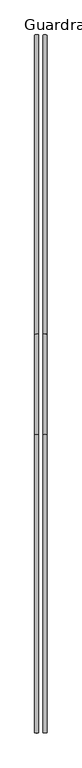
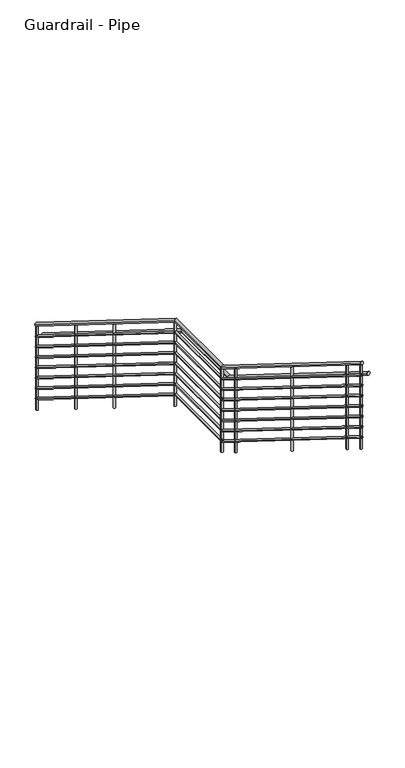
"""IFC4 building model written with IfcOpenShell, lengths in millimetres: railing geometry, Guardrail - Pipe."""

from ifc_helpers import new_model, si_unit, point, frame, frame_2d, origin, place, context, project, spatial, circle_curve, ellipse_curve, trimmed, segment, composite_curve, outline, extrude, source, transform, mapped, element, save
from ifc_brep_helpers import plane_surface, cylinder_surface, advanced_brep


def guardrail_pipe_06b17180(model_context):
    return source(origin(), model_context, "Body", "SolidModel", [
        advanced_brep(
        [(-3343.0939612, 2884.909643, -2439.0768639), (-3304.9939612, 2884.909643, -2439.0768639), (-3343.0939612, 85.4582154, -693.9642857), (-3304.9939612, 85.4582154, -693.9642857), (-3343.0939612, -854.3417846, -693.9642857), (-3304.9939612, -854.3417846, -693.9642857), (-3343.0939612, -3642.890357, 1044.3517075), (-3304.9939612, -3642.890357, 1044.3517075)],
        [
            (0, 1, ellipse_curve(frame((-3324.0439612, 2884.909643, -2439.0768639), z_axis=(0.0, 1.0, 0.0), x_axis=(0.0, 0.0, -1.0)), 22.4482925, 19.05)),
            (1, 0, ellipse_curve(frame((-3324.0439612, 2884.909643, -2439.0768639), z_axis=(0.0, 1.0, 0.0), x_axis=(0.0, 0.0, -1.0)), 22.4482925, 19.05)),
            (0, 2),
            (2, 3, ellipse_curve(frame((-3324.0439612, 85.4582154, -693.9642857), z_axis=(0.0, 0.9614096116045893, -0.2751209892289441), x_axis=(0.0, -0.27512098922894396, -0.9614096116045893)), 19.8146552, 19.05)),
            (3, 1),
            (3, 2, ellipse_curve(frame((-3324.0439612, 85.4582154, -693.9642857), z_axis=(0.0, 0.9614096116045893, -0.2751209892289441), x_axis=(0.0, -0.27512098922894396, -0.9614096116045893)), 19.8146552, 19.05)),
            (2, 4),
            (4, 5, ellipse_curve(frame((-3324.0439612, -854.3417846, -693.9642857), z_axis=(0.0, 0.9614096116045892, -0.27512098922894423), x_axis=(0.0, 0.2751209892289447, 0.9614096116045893)), 19.8146552, 19.05)),
            (5, 3),
            (5, 4, ellipse_curve(frame((-3324.0439612, -854.3417846, -693.9642857), z_axis=(0.0, 0.9614096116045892, -0.27512098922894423), x_axis=(0.0, 0.2751209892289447, 0.9614096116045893)), 19.8146552, 19.05)),
            (6, 7, ellipse_curve(frame((-3324.0439612, -3642.890357, 1044.3517075), z_axis=(0.0, -1.0, 0.0), x_axis=(0.0, 0.0, -1.0)), 22.4482925, 19.05)),
            (7, 6, ellipse_curve(frame((-3324.0439612, -3642.890357, 1044.3517075), z_axis=(0.0, -1.0, 0.0), x_axis=(0.0, 0.0, -1.0)), 22.4482925, 19.05)),
            (4, 6),
            (7, 5),
        ],
        [
            plane_surface(frame((-3324.0439612, 2884.909643, -2416.6285714), z_axis=(0.0, 1.0, 0.0), x_axis=(0.0, 0.0, -1.0))),
            cylinder_surface(frame((-3324.0439612, 2874.832042, -2432.794723), z_axis=(0.0, 0.8486168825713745, -0.5290079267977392), x_axis=(1.0, 0.0, 0.0)), 19.05),
            cylinder_surface(frame((-3324.0439612, 90.909643, -693.9642857), z_axis=(0.0, 1.0, 0.0), x_axis=(1.0, 0.0, 0.0)), 19.05),
            plane_surface(frame((-3324.0439612, -3642.890357, 1066.8), z_axis=(0.0, -1.0, 0.0), x_axis=(0.0, 0.0, -1.0))),
            cylinder_surface(frame((-3324.0439612, -858.967958, -691.0804373), z_axis=(0.0, 0.8486168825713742, -0.5290079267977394), x_axis=(1.0, 0.0, 0.0)), 19.05),
        ],
        [
            (0, [[1, 2]]),
            (1, [[-1, 3, 4, 5]]),
            (1, [[-2, -5, 6, -3]]),
            (2, [[-4, 7, 8, 9]]),
            (2, [[-6, -9, 10, -7]]),
            (3, [[11, 12]]),
            (4, [[-8, 13, -12, 14]]),
            (4, [[-10, -14, -11, -13]]),
        ],
    ),
        advanced_brep(
        [(-3336.7439612, 2884.909643, -2583.9940998), (-3311.3439612, 2884.909643, -2583.9940998), (-3336.7439612, 87.2753579, -840.0142857), (-3311.3439612, 87.2753579, -840.0142857), (-3336.7439612, -852.5246421, -840.0142857), (-3311.3439612, -852.5246421, -840.0142857), (-3336.7439612, -3642.890357, 899.4344717), (-3311.3439612, -3642.890357, 899.4344717)],
        [
            (0, 1, ellipse_curve(frame((-3324.0439612, 2884.909643, -2583.9940998), z_axis=(0.0, 1.0, 0.0), x_axis=(0.0, 0.0, -1.0)), 14.9655283, 12.7)),
            (1, 0, ellipse_curve(frame((-3324.0439612, 2884.909643, -2583.9940998), z_axis=(0.0, 1.0, 0.0), x_axis=(0.0, 0.0, -1.0)), 14.9655283, 12.7)),
            (0, 2),
            (2, 3, ellipse_curve(frame((-3324.0439612, 87.2753579, -840.0142857), z_axis=(0.0, 0.9614096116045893, -0.2751209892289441), x_axis=(0.0, -0.27512098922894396, -0.9614096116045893)), 13.2097702, 12.7)),
            (3, 1),
            (3, 2, ellipse_curve(frame((-3324.0439612, 87.2753579, -840.0142857), z_axis=(0.0, 0.9614096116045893, -0.2751209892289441), x_axis=(0.0, -0.27512098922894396, -0.9614096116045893)), 13.2097702, 12.7)),
            (2, 4),
            (4, 5, ellipse_curve(frame((-3324.0439612, -852.5246421, -840.0142857), z_axis=(0.0, 0.9614096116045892, -0.27512098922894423), x_axis=(0.0, 0.2751209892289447, 0.9614096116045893)), 13.2097702, 12.7)),
            (5, 3),
            (5, 4, ellipse_curve(frame((-3324.0439612, -852.5246421, -840.0142857), z_axis=(0.0, 0.9614096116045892, -0.27512098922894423), x_axis=(0.0, 0.2751209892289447, 0.9614096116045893)), 13.2097702, 12.7)),
            (6, 7, ellipse_curve(frame((-3324.0439612, -3642.890357, 899.4344717), z_axis=(0.0, -1.0, 0.0), x_axis=(0.0, 0.0, -1.0)), 14.9655283, 12.7)),
            (7, 6, ellipse_curve(frame((-3324.0439612, -3642.890357, 899.4344717), z_axis=(0.0, -1.0, 0.0), x_axis=(0.0, 0.0, -1.0)), 14.9655283, 12.7)),
            (4, 6),
            (7, 5),
        ],
        [
            plane_surface(frame((-3324.0439612, 2884.909643, -2569.0285714), z_axis=(0.0, 1.0, 0.0), x_axis=(0.0, 0.0, -1.0))),
            cylinder_surface(frame((-3324.0439612, 2878.1912423, -2579.8060058), z_axis=(0.0, 0.8486168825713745, -0.5290079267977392), x_axis=(1.0, 0.0, 0.0)), 12.7),
            cylinder_surface(frame((-3324.0439612, 90.909643, -840.0142857), z_axis=(0.0, 1.0, 0.0), x_axis=(1.0, 0.0, 0.0)), 12.7),
            plane_surface(frame((-3324.0439612, -3642.890357, 914.4), z_axis=(0.0, -1.0, 0.0), x_axis=(0.0, 0.0, -1.0))),
            cylinder_surface(frame((-3324.0439612, -855.6087577, -838.0917201), z_axis=(0.0, 0.8486168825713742, -0.5290079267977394), x_axis=(1.0, 0.0, 0.0)), 12.7),
        ],
        [
            (0, [[1, 2]]),
            (1, [[-1, 3, 4, 5]]),
            (1, [[-2, -5, 6, -3]]),
            (2, [[-4, 7, 8, 9]]),
            (2, [[-6, -9, 10, -7]]),
            (3, [[11, 12]]),
            (4, [[-8, 13, -12, 14]]),
            (4, [[-10, -14, -11, -13]]),
        ],
    ),
        advanced_brep(
        [(-3266.8939612, 2884.909643, -2591.4768639), (-3228.7939612, 2884.909643, -2591.4768639), (-3266.8939612, 85.4582154, -846.3642857), (-3228.7939612, 85.4582154, -846.3642857), (-3266.8939612, -854.3417846, -846.3642857), (-3228.7939612, -854.3417846, -846.3642857), (-3266.8939612, -3642.890357, 891.9517075), (-3228.7939612, -3642.890357, 891.9517075)],
        [
            (0, 1, ellipse_curve(frame((-3247.8439612, 2884.909643, -2591.4768639), z_axis=(0.0, 1.0, 0.0), x_axis=(0.0, 0.0, -1.0)), 22.4482925, 19.05)),
            (1, 0, ellipse_curve(frame((-3247.8439612, 2884.909643, -2591.4768639), z_axis=(0.0, 1.0, 0.0), x_axis=(0.0, 0.0, -1.0)), 22.4482925, 19.05)),
            (0, 2),
            (2, 3, ellipse_curve(frame((-3247.8439612, 85.4582154, -846.3642857), z_axis=(0.0, 0.9614096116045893, -0.2751209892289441), x_axis=(0.0, -0.27512098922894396, -0.9614096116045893)), 19.8146552, 19.05)),
            (3, 1),
            (3, 2, ellipse_curve(frame((-3247.8439612, 85.4582154, -846.3642857), z_axis=(0.0, 0.9614096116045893, -0.2751209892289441), x_axis=(0.0, -0.27512098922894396, -0.9614096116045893)), 19.8146552, 19.05)),
            (2, 4),
            (4, 5, ellipse_curve(frame((-3247.8439612, -854.3417846, -846.3642857), z_axis=(0.0, 0.9614096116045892, -0.27512098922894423), x_axis=(0.0, 0.2751209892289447, 0.9614096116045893)), 19.8146552, 19.05)),
            (5, 3),
            (5, 4, ellipse_curve(frame((-3247.8439612, -854.3417846, -846.3642857), z_axis=(0.0, 0.9614096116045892, -0.27512098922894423), x_axis=(0.0, 0.2751209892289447, 0.9614096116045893)), 19.8146552, 19.05)),
            (6, 7, ellipse_curve(frame((-3247.8439612, -3642.890357, 891.9517075), z_axis=(0.0, -1.0, 0.0), x_axis=(0.0, 0.0, -1.0)), 22.4482925, 19.05)),
            (7, 6, ellipse_curve(frame((-3247.8439612, -3642.890357, 891.9517075), z_axis=(0.0, -1.0, 0.0), x_axis=(0.0, 0.0, -1.0)), 22.4482925, 19.05)),
            (4, 6),
            (7, 5),
        ],
        [
            plane_surface(frame((-3247.8439612, 2884.909643, -2569.0285714), z_axis=(0.0, 1.0, 0.0), x_axis=(0.0, 0.0, -1.0))),
            cylinder_surface(frame((-3247.8439612, 2874.832042, -2585.194723), z_axis=(0.0, 0.8486168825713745, -0.5290079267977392), x_axis=(1.0, 0.0, 0.0)), 19.05),
            cylinder_surface(frame((-3247.8439612, 90.909643, -846.3642857), z_axis=(0.0, 1.0, 0.0), x_axis=(1.0, 0.0, 0.0)), 19.05),
            plane_surface(frame((-3247.8439612, -3642.890357, 914.4), z_axis=(0.0, -1.0, 0.0), x_axis=(0.0, 0.0, -1.0))),
            cylinder_surface(frame((-3247.8439612, -858.967958, -843.4804373), z_axis=(0.0, 0.8486168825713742, -0.5290079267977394), x_axis=(1.0, 0.0, 0.0)), 19.05),
        ],
        [
            (0, [[1, 2]]),
            (1, [[-1, 3, 4, 5]]),
            (1, [[-2, -5, 6, -3]]),
            (2, [[-4, 7, 8, 9]]),
            (2, [[-6, -9, 10, -7]]),
            (3, [[11, 12]]),
            (4, [[-8, 13, -12, 14]]),
            (4, [[-10, -14, -11, -13]]),
        ],
    ),
        advanced_brep(
        [(-3336.7439612, 2884.909643, -2710.9940998), (-3311.3439612, 2884.909643, -2710.9940998), (-3336.7439612, 87.2753579, -967.0142857), (-3311.3439612, 87.2753579, -967.0142857), (-3336.7439612, -852.5246421, -967.0142857), (-3311.3439612, -852.5246421, -967.0142857), (-3336.7439612, -3642.890357, 772.4344717), (-3311.3439612, -3642.890357, 772.4344717)],
        [
            (0, 1, ellipse_curve(frame((-3324.0439612, 2884.909643, -2710.9940998), z_axis=(0.0, 1.0, 0.0), x_axis=(0.0, 0.0, -1.0)), 14.9655283, 12.7)),
            (1, 0, ellipse_curve(frame((-3324.0439612, 2884.909643, -2710.9940998), z_axis=(0.0, 1.0, 0.0), x_axis=(0.0, 0.0, -1.0)), 14.9655283, 12.7)),
            (0, 2),
            (2, 3, ellipse_curve(frame((-3324.0439612, 87.2753579, -967.0142857), z_axis=(0.0, 0.9614096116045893, -0.2751209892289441), x_axis=(0.0, -0.27512098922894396, -0.9614096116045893)), 13.2097702, 12.7)),
            (3, 1),
            (3, 2, ellipse_curve(frame((-3324.0439612, 87.2753579, -967.0142857), z_axis=(0.0, 0.9614096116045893, -0.2751209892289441), x_axis=(0.0, -0.27512098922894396, -0.9614096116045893)), 13.2097702, 12.7)),
            (2, 4),
            (4, 5, ellipse_curve(frame((-3324.0439612, -852.5246421, -967.0142857), z_axis=(0.0, 0.9614096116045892, -0.27512098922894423), x_axis=(0.0, 0.2751209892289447, 0.9614096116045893)), 13.2097702, 12.7)),
            (5, 3),
            (5, 4, ellipse_curve(frame((-3324.0439612, -852.5246421, -967.0142857), z_axis=(0.0, 0.9614096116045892, -0.27512098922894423), x_axis=(0.0, 0.2751209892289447, 0.9614096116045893)), 13.2097702, 12.7)),
            (6, 7, ellipse_curve(frame((-3324.0439612, -3642.890357, 772.4344717), z_axis=(0.0, -1.0, 0.0), x_axis=(0.0, 0.0, -1.0)), 14.9655283, 12.7)),
            (7, 6, ellipse_curve(frame((-3324.0439612, -3642.890357, 772.4344717), z_axis=(0.0, -1.0, 0.0), x_axis=(0.0, 0.0, -1.0)), 14.9655283, 12.7)),
            (4, 6),
            (7, 5),
        ],
        [
            plane_surface(frame((-3324.0439612, 2884.909643, -2696.0285714), z_axis=(0.0, 1.0, 0.0), x_axis=(0.0, 0.0, -1.0))),
            cylinder_surface(frame((-3324.0439612, 2878.1912423, -2706.8060058), z_axis=(0.0, 0.8486168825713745, -0.5290079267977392), x_axis=(1.0, 0.0, 0.0)), 12.7),
            cylinder_surface(frame((-3324.0439612, 90.909643, -967.0142857), z_axis=(0.0, 1.0, 0.0), x_axis=(1.0, 0.0, 0.0)), 12.7),
            plane_surface(frame((-3324.0439612, -3642.890357, 787.4), z_axis=(0.0, -1.0, 0.0), x_axis=(0.0, 0.0, -1.0))),
            cylinder_surface(frame((-3324.0439612, -855.6087577, -965.0917201), z_axis=(0.0, 0.8486168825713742, -0.5290079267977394), x_axis=(1.0, 0.0, 0.0)), 12.7),
        ],
        [
            (0, [[1, 2]]),
            (1, [[-1, 3, 4, 5]]),
            (1, [[-2, -5, 6, -3]]),
            (2, [[-4, 7, 8, 9]]),
            (2, [[-6, -9, 10, -7]]),
            (3, [[11, 12]]),
            (4, [[-8, 13, -12, 14]]),
            (4, [[-10, -14, -11, -13]]),
        ],
    ),
        advanced_brep(
        [(-3336.7439612, 2884.909643, -2837.9940998), (-3311.3439612, 2884.909643, -2837.9940998), (-3336.7439612, 87.2753579, -1094.0142857), (-3311.3439612, 87.2753579, -1094.0142857), (-3336.7439612, -852.5246421, -1094.0142857), (-3311.3439612, -852.5246421, -1094.0142857), (-3336.7439612, -3642.890357, 645.4344717), (-3311.3439612, -3642.890357, 645.4344717)],
        [
            (0, 1, ellipse_curve(frame((-3324.0439612, 2884.909643, -2837.9940998), z_axis=(0.0, 1.0, 0.0), x_axis=(0.0, 0.0, -1.0)), 14.9655283, 12.7)),
            (1, 0, ellipse_curve(frame((-3324.0439612, 2884.909643, -2837.9940998), z_axis=(0.0, 1.0, 0.0), x_axis=(0.0, 0.0, -1.0)), 14.9655283, 12.7)),
            (0, 2),
            (2, 3, ellipse_curve(frame((-3324.0439612, 87.2753579, -1094.0142857), z_axis=(0.0, 0.9614096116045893, -0.2751209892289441), x_axis=(0.0, -0.27512098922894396, -0.9614096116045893)), 13.2097702, 12.7)),
            (3, 1),
            (3, 2, ellipse_curve(frame((-3324.0439612, 87.2753579, -1094.0142857), z_axis=(0.0, 0.9614096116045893, -0.2751209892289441), x_axis=(0.0, -0.27512098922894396, -0.9614096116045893)), 13.2097702, 12.7)),
            (2, 4),
            (4, 5, ellipse_curve(frame((-3324.0439612, -852.5246421, -1094.0142857), z_axis=(0.0, 0.9614096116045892, -0.27512098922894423), x_axis=(0.0, 0.2751209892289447, 0.9614096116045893)), 13.2097702, 12.7)),
            (5, 3),
            (5, 4, ellipse_curve(frame((-3324.0439612, -852.5246421, -1094.0142857), z_axis=(0.0, 0.9614096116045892, -0.27512098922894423), x_axis=(0.0, 0.2751209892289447, 0.9614096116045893)), 13.2097702, 12.7)),
            (6, 7, ellipse_curve(frame((-3324.0439612, -3642.890357, 645.4344717), z_axis=(0.0, -1.0, 0.0), x_axis=(0.0, 0.0, -1.0)), 14.9655283, 12.7)),
            (7, 6, ellipse_curve(frame((-3324.0439612, -3642.890357, 645.4344717), z_axis=(0.0, -1.0, 0.0), x_axis=(0.0, 0.0, -1.0)), 14.9655283, 12.7)),
            (4, 6),
            (7, 5),
        ],
        [
            plane_surface(frame((-3324.0439612, 2884.909643, -2823.0285714), z_axis=(0.0, 1.0, 0.0), x_axis=(0.0, 0.0, -1.0))),
            cylinder_surface(frame((-3324.0439612, 2878.1912423, -2833.8060058), z_axis=(0.0, 0.8486168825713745, -0.5290079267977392), x_axis=(1.0, 0.0, 0.0)), 12.7),
            cylinder_surface(frame((-3324.0439612, 90.909643, -1094.0142857), z_axis=(0.0, 1.0, 0.0), x_axis=(1.0, 0.0, 0.0)), 12.7),
            plane_surface(frame((-3324.0439612, -3642.890357, 660.4), z_axis=(0.0, -1.0, 0.0), x_axis=(0.0, 0.0, -1.0))),
            cylinder_surface(frame((-3324.0439612, -855.6087577, -1092.0917201), z_axis=(0.0, 0.8486168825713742, -0.5290079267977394), x_axis=(1.0, 0.0, 0.0)), 12.7),
        ],
        [
            (0, [[1, 2]]),
            (1, [[-1, 3, 4, 5]]),
            (1, [[-2, -5, 6, -3]]),
            (2, [[-4, 7, 8, 9]]),
            (2, [[-6, -9, 10, -7]]),
            (3, [[11, 12]]),
            (4, [[-8, 13, -12, 14]]),
            (4, [[-10, -14, -11, -13]]),
        ],
    ),
        advanced_brep(
        [(-3336.7439612, 2884.909643, -2964.9940998), (-3311.3439612, 2884.909643, -2964.9940998), (-3336.7439612, 87.2753579, -1221.0142857), (-3311.3439612, 87.2753579, -1221.0142857), (-3336.7439612, -852.5246421, -1221.0142857), (-3311.3439612, -852.5246421, -1221.0142857), (-3336.7439612, -3642.890357, 518.4344717), (-3311.3439612, -3642.890357, 518.4344717)],
        [
            (0, 1, ellipse_curve(frame((-3324.0439612, 2884.909643, -2964.9940998), z_axis=(0.0, 1.0, 0.0), x_axis=(0.0, 0.0, -1.0)), 14.9655283, 12.7)),
            (1, 0, ellipse_curve(frame((-3324.0439612, 2884.909643, -2964.9940998), z_axis=(0.0, 1.0, 0.0), x_axis=(0.0, 0.0, -1.0)), 14.9655283, 12.7)),
            (0, 2),
            (2, 3, ellipse_curve(frame((-3324.0439612, 87.2753579, -1221.0142857), z_axis=(0.0, 0.9614096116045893, -0.2751209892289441), x_axis=(0.0, -0.27512098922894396, -0.9614096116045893)), 13.2097702, 12.7)),
            (3, 1),
            (3, 2, ellipse_curve(frame((-3324.0439612, 87.2753579, -1221.0142857), z_axis=(0.0, 0.9614096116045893, -0.2751209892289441), x_axis=(0.0, -0.27512098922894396, -0.9614096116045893)), 13.2097702, 12.7)),
            (2, 4),
            (4, 5, ellipse_curve(frame((-3324.0439612, -852.5246421, -1221.0142857), z_axis=(0.0, 0.9614096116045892, -0.27512098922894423), x_axis=(0.0, 0.2751209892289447, 0.9614096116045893)), 13.2097702, 12.7)),
            (5, 3),
            (5, 4, ellipse_curve(frame((-3324.0439612, -852.5246421, -1221.0142857), z_axis=(0.0, 0.9614096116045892, -0.27512098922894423), x_axis=(0.0, 0.2751209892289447, 0.9614096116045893)), 13.2097702, 12.7)),
            (6, 7, ellipse_curve(frame((-3324.0439612, -3642.890357, 518.4344717), z_axis=(0.0, -1.0, 0.0), x_axis=(0.0, 0.0, -1.0)), 14.9655283, 12.7)),
            (7, 6, ellipse_curve(frame((-3324.0439612, -3642.890357, 518.4344717), z_axis=(0.0, -1.0, 0.0), x_axis=(0.0, 0.0, -1.0)), 14.9655283, 12.7)),
            (4, 6),
            (7, 5),
        ],
        [
            plane_surface(frame((-3324.0439612, 2884.909643, -2950.0285714), z_axis=(0.0, 1.0, 0.0), x_axis=(0.0, 0.0, -1.0))),
            cylinder_surface(frame((-3324.0439612, 2878.1912423, -2960.8060058), z_axis=(0.0, 0.8486168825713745, -0.5290079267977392), x_axis=(1.0, 0.0, 0.0)), 12.7),
            cylinder_surface(frame((-3324.0439612, 90.909643, -1221.0142857), z_axis=(0.0, 1.0, 0.0), x_axis=(1.0, 0.0, 0.0)), 12.7),
            plane_surface(frame((-3324.0439612, -3642.890357, 533.4), z_axis=(0.0, -1.0, 0.0), x_axis=(0.0, 0.0, -1.0))),
            cylinder_surface(frame((-3324.0439612, -855.6087577, -1219.0917201), z_axis=(0.0, 0.8486168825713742, -0.5290079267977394), x_axis=(1.0, 0.0, 0.0)), 12.7),
        ],
        [
            (0, [[1, 2]]),
            (1, [[-1, 3, 4, 5]]),
            (1, [[-2, -5, 6, -3]]),
            (2, [[-4, 7, 8, 9]]),
            (2, [[-6, -9, 10, -7]]),
            (3, [[11, 12]]),
            (4, [[-8, 13, -12, 14]]),
            (4, [[-10, -14, -11, -13]]),
        ],
    ),
        advanced_brep(
        [(-3336.7439612, 2884.909643, -3091.9940998), (-3311.3439612, 2884.909643, -3091.9940998), (-3336.7439612, 87.2753579, -1348.0142857), (-3311.3439612, 87.2753579, -1348.0142857), (-3336.7439612, -852.5246421, -1348.0142857), (-3311.3439612, -852.5246421, -1348.0142857), (-3336.7439612, -3642.890357, 391.4344717), (-3311.3439612, -3642.890357, 391.4344717)],
        [
            (0, 1, ellipse_curve(frame((-3324.0439612, 2884.909643, -3091.9940998), z_axis=(0.0, 1.0, 0.0), x_axis=(0.0, 0.0, -1.0)), 14.9655283, 12.7)),
            (1, 0, ellipse_curve(frame((-3324.0439612, 2884.909643, -3091.9940998), z_axis=(0.0, 1.0, 0.0), x_axis=(0.0, 0.0, -1.0)), 14.9655283, 12.7)),
            (0, 2),
            (2, 3, ellipse_curve(frame((-3324.0439612, 87.2753579, -1348.0142857), z_axis=(0.0, 0.9614096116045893, -0.2751209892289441), x_axis=(0.0, -0.27512098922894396, -0.9614096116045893)), 13.2097702, 12.7)),
            (3, 1),
            (3, 2, ellipse_curve(frame((-3324.0439612, 87.2753579, -1348.0142857), z_axis=(0.0, 0.9614096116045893, -0.2751209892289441), x_axis=(0.0, -0.27512098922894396, -0.9614096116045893)), 13.2097702, 12.7)),
            (2, 4),
            (4, 5, ellipse_curve(frame((-3324.0439612, -852.5246421, -1348.0142857), z_axis=(0.0, 0.9614096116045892, -0.27512098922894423), x_axis=(0.0, 0.2751209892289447, 0.9614096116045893)), 13.2097702, 12.7)),
            (5, 3),
            (5, 4, ellipse_curve(frame((-3324.0439612, -852.5246421, -1348.0142857), z_axis=(0.0, 0.9614096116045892, -0.27512098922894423), x_axis=(0.0, 0.2751209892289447, 0.9614096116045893)), 13.2097702, 12.7)),
            (6, 7, ellipse_curve(frame((-3324.0439612, -3642.890357, 391.4344717), z_axis=(0.0, -1.0, 0.0), x_axis=(0.0, 0.0, -1.0)), 14.9655283, 12.7)),
            (7, 6, ellipse_curve(frame((-3324.0439612, -3642.890357, 391.4344717), z_axis=(0.0, -1.0, 0.0), x_axis=(0.0, 0.0, -1.0)), 14.9655283, 12.7)),
            (4, 6),
            (7, 5),
        ],
        [
            plane_surface(frame((-3324.0439612, 2884.909643, -3077.0285714), z_axis=(0.0, 1.0, 0.0), x_axis=(0.0, 0.0, -1.0))),
            cylinder_surface(frame((-3324.0439612, 2878.1912423, -3087.8060058), z_axis=(0.0, 0.8486168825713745, -0.5290079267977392), x_axis=(1.0, 0.0, 0.0)), 12.7),
            cylinder_surface(frame((-3324.0439612, 90.909643, -1348.0142857), z_axis=(0.0, 1.0, 0.0), x_axis=(1.0, 0.0, 0.0)), 12.7),
            plane_surface(frame((-3324.0439612, -3642.890357, 406.4), z_axis=(0.0, -1.0, 0.0), x_axis=(0.0, 0.0, -1.0))),
            cylinder_surface(frame((-3324.0439612, -855.6087577, -1346.0917201), z_axis=(0.0, 0.8486168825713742, -0.5290079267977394), x_axis=(1.0, 0.0, 0.0)), 12.7),
        ],
        [
            (0, [[1, 2]]),
            (1, [[-1, 3, 4, 5]]),
            (1, [[-2, -5, 6, -3]]),
            (2, [[-4, 7, 8, 9]]),
            (2, [[-6, -9, 10, -7]]),
            (3, [[11, 12]]),
            (4, [[-8, 13, -12, 14]]),
            (4, [[-10, -14, -11, -13]]),
        ],
    ),
        advanced_brep(
        [(-3336.7439612, 2884.909643, -3218.9940998), (-3311.3439612, 2884.909643, -3218.9940998), (-3336.7439612, 87.2753579, -1475.0142857), (-3311.3439612, 87.2753579, -1475.0142857), (-3336.7439612, -852.5246421, -1475.0142857), (-3311.3439612, -852.5246421, -1475.0142857), (-3336.7439612, -3642.890357, 264.4344717), (-3311.3439612, -3642.890357, 264.4344717)],
        [
            (0, 1, ellipse_curve(frame((-3324.0439612, 2884.909643, -3218.9940998), z_axis=(0.0, 1.0, 0.0), x_axis=(0.0, 0.0, -1.0)), 14.9655283, 12.7)),
            (1, 0, ellipse_curve(frame((-3324.0439612, 2884.909643, -3218.9940998), z_axis=(0.0, 1.0, 0.0), x_axis=(0.0, 0.0, -1.0)), 14.9655283, 12.7)),
            (0, 2),
            (2, 3, ellipse_curve(frame((-3324.0439612, 87.2753579, -1475.0142857), z_axis=(0.0, 0.9614096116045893, -0.2751209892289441), x_axis=(0.0, -0.27512098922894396, -0.9614096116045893)), 13.2097702, 12.7)),
            (3, 1),
            (3, 2, ellipse_curve(frame((-3324.0439612, 87.2753579, -1475.0142857), z_axis=(0.0, 0.9614096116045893, -0.2751209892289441), x_axis=(0.0, -0.27512098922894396, -0.9614096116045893)), 13.2097702, 12.7)),
            (2, 4),
            (4, 5, ellipse_curve(frame((-3324.0439612, -852.5246421, -1475.0142857), z_axis=(0.0, 0.9614096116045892, -0.27512098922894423), x_axis=(0.0, 0.2751209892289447, 0.9614096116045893)), 13.2097702, 12.7)),
            (5, 3),
            (5, 4, ellipse_curve(frame((-3324.0439612, -852.5246421, -1475.0142857), z_axis=(0.0, 0.9614096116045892, -0.27512098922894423), x_axis=(0.0, 0.2751209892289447, 0.9614096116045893)), 13.2097702, 12.7)),
            (6, 7, ellipse_curve(frame((-3324.0439612, -3642.890357, 264.4344717), z_axis=(0.0, -1.0, 0.0), x_axis=(0.0, 0.0, -1.0)), 14.9655283, 12.7)),
            (7, 6, ellipse_curve(frame((-3324.0439612, -3642.890357, 264.4344717), z_axis=(0.0, -1.0, 0.0), x_axis=(0.0, 0.0, -1.0)), 14.9655283, 12.7)),
            (4, 6),
            (7, 5),
        ],
        [
            plane_surface(frame((-3324.0439612, 2884.909643, -3204.0285714), z_axis=(0.0, 1.0, 0.0), x_axis=(0.0, 0.0, -1.0))),
            cylinder_surface(frame((-3324.0439612, 2878.1912423, -3214.8060058), z_axis=(0.0, 0.8486168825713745, -0.5290079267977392), x_axis=(1.0, 0.0, 0.0)), 12.7),
            cylinder_surface(frame((-3324.0439612, 90.909643, -1475.0142857), z_axis=(0.0, 1.0, 0.0), x_axis=(1.0, 0.0, 0.0)), 12.7),
            plane_surface(frame((-3324.0439612, -3642.890357, 279.4), z_axis=(0.0, -1.0, 0.0), x_axis=(0.0, 0.0, -1.0))),
            cylinder_surface(frame((-3324.0439612, -855.6087577, -1473.0917201), z_axis=(0.0, 0.8486168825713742, -0.5290079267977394), x_axis=(1.0, 0.0, 0.0)), 12.7),
        ],
        [
            (0, [[1, 2]]),
            (1, [[-1, 3, 4, 5]]),
            (1, [[-2, -5, 6, -3]]),
            (2, [[-4, 7, 8, 9]]),
            (2, [[-6, -9, 10, -7]]),
            (3, [[11, 12]]),
            (4, [[-8, 13, -12, 14]]),
            (4, [[-10, -14, -11, -13]]),
        ],
    ),
        advanced_brep(
        [(-3336.7439612, 2884.909643, -3345.9940998), (-3311.3439612, 2884.909643, -3345.9940998), (-3336.7439612, 87.2753579, -1602.0142857), (-3311.3439612, 87.2753579, -1602.0142857), (-3336.7439612, -852.5246421, -1602.0142857), (-3311.3439612, -852.5246421, -1602.0142857), (-3336.7439612, -3642.890357, 137.4344717), (-3311.3439612, -3642.890357, 137.4344717)],
        [
            (0, 1, ellipse_curve(frame((-3324.0439612, 2884.909643, -3345.9940998), z_axis=(0.0, 1.0, 0.0), x_axis=(0.0, 0.0, -1.0)), 14.9655283, 12.7)),
            (1, 0, ellipse_curve(frame((-3324.0439612, 2884.909643, -3345.9940998), z_axis=(0.0, 1.0, 0.0), x_axis=(0.0, 0.0, -1.0)), 14.9655283, 12.7)),
            (0, 2),
            (2, 3, ellipse_curve(frame((-3324.0439612, 87.2753579, -1602.0142857), z_axis=(0.0, 0.9614096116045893, -0.2751209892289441), x_axis=(0.0, -0.27512098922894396, -0.9614096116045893)), 13.2097702, 12.7)),
            (3, 1),
            (3, 2, ellipse_curve(frame((-3324.0439612, 87.2753579, -1602.0142857), z_axis=(0.0, 0.9614096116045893, -0.2751209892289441), x_axis=(0.0, -0.27512098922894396, -0.9614096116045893)), 13.2097702, 12.7)),
            (2, 4),
            (4, 5, ellipse_curve(frame((-3324.0439612, -852.5246421, -1602.0142857), z_axis=(0.0, 0.9614096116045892, -0.27512098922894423), x_axis=(0.0, 0.2751209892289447, 0.9614096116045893)), 13.2097702, 12.7)),
            (5, 3),
            (5, 4, ellipse_curve(frame((-3324.0439612, -852.5246421, -1602.0142857), z_axis=(0.0, 0.9614096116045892, -0.27512098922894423), x_axis=(0.0, 0.2751209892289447, 0.9614096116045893)), 13.2097702, 12.7)),
            (6, 7, ellipse_curve(frame((-3324.0439612, -3642.890357, 137.4344717), z_axis=(0.0, -1.0, 0.0), x_axis=(0.0, 0.0, -1.0)), 14.9655283, 12.7)),
            (7, 6, ellipse_curve(frame((-3324.0439612, -3642.890357, 137.4344717), z_axis=(0.0, -1.0, 0.0), x_axis=(0.0, 0.0, -1.0)), 14.9655283, 12.7)),
            (4, 6),
            (7, 5),
        ],
        [
            plane_surface(frame((-3324.0439612, 2884.909643, -3331.0285714), z_axis=(0.0, 1.0, 0.0), x_axis=(0.0, 0.0, -1.0))),
            cylinder_surface(frame((-3324.0439612, 2878.1912423, -3341.8060058), z_axis=(0.0, 0.8486168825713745, -0.5290079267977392), x_axis=(1.0, 0.0, 0.0)), 12.7),
            cylinder_surface(frame((-3324.0439612, 90.909643, -1602.0142857), z_axis=(0.0, 1.0, 0.0), x_axis=(1.0, 0.0, 0.0)), 12.7),
            plane_surface(frame((-3324.0439612, -3642.890357, 152.4), z_axis=(0.0, -1.0, 0.0), x_axis=(0.0, 0.0, -1.0))),
            cylinder_surface(frame((-3324.0439612, -855.6087577, -1600.0917201), z_axis=(0.0, 0.8486168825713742, -0.5290079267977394), x_axis=(1.0, 0.0, 0.0)), 12.7),
        ],
        [
            (0, [[1, 2]]),
            (1, [[-1, 3, 4, 5]]),
            (1, [[-2, -5, 6, -3]]),
            (2, [[-4, 7, 8, 9]]),
            (2, [[-6, -9, 10, -7]]),
            (3, [[11, 12]]),
            (4, [[-8, 13, -12, 14]]),
            (4, [[-10, -14, -11, -13]]),
        ],
    ),
        advanced_brep(
        [(-3336.7439612, -3630.5087726, -7.7183903), (-3311.3439612, -3630.5087726, -7.7183903), (-3311.3439612, -3630.5087726, 1014.1850247), (-3336.7439612, -3630.5087726, 1014.1850247)],
        [
            (0, 1, circle_curve(frame((-3324.0439612, -3630.5087726, -7.7183903), z_axis=(0.0, 0.0, -1.0), x_axis=(1.0, 0.0, 0.0)), 12.7)),
            (1, 0, circle_curve(frame((-3324.0439612, -3630.5087726, -7.7183903), z_axis=(0.0, 0.0, -1.0), x_axis=(1.0, 0.0, 0.0)), 12.7)),
            (1, 2),
            (2, 3, ellipse_curve(frame((-3324.0439612, -3630.5087726, 1014.1850247), z_axis=(0.0, -0.5290079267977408, -0.8486168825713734), x_axis=(0.0, -0.8486168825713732, 0.5290079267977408)), 14.9655283, 12.7)),
            (3, 0),
            (3, 2, ellipse_curve(frame((-3324.0439612, -3630.5087726, 1014.1850247), z_axis=(0.0, -0.5290079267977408, -0.8486168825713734), x_axis=(0.0, -0.8486168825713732, 0.5290079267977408)), 14.9655283, 12.7)),
        ],
        [
            plane_surface(frame((-3311.3439612, -3630.5087726, -7.7183903), z_axis=(0.0, 0.0, -1.0), x_axis=(0.0, -1.0, 0.0))),
            cylinder_surface(frame((-3324.0439612, -3630.5087726, -7.7183903), z_axis=(0.0, 0.0, 1.0), x_axis=(1.0, 0.0, 0.0)), 12.7),
            plane_surface(frame((-3276.8181313, -3665.4337726, 1035.9564532), z_axis=(0.0, 0.5290079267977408, 0.8486168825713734), x_axis=(-1.0, 0.0, 0.0))),
        ],
        [
            (0, [[1, 2]]),
            (1, [[-2, 3, 4, 5]]),
            (1, [[-1, -5, 6, -3]]),
            (2, [[-4, -6]]),
        ],
    ),
        advanced_brep(
        [(-3336.7439612, -3351.1087726, -181.8898189), (-3311.3439612, -3351.1087726, -181.8898189), (-3311.3439612, -3351.1087726, 840.0135961), (-3336.7439612, -3351.1087726, 840.0135961)],
        [
            (0, 1, circle_curve(frame((-3324.0439612, -3351.1087726, -181.8898189), z_axis=(0.0, 0.0, -1.0), x_axis=(1.0, 0.0, 0.0)), 12.7)),
            (1, 0, circle_curve(frame((-3324.0439612, -3351.1087726, -181.8898189), z_axis=(0.0, 0.0, -1.0), x_axis=(1.0, 0.0, 0.0)), 12.7)),
            (1, 2),
            (2, 3, ellipse_curve(frame((-3324.0439612, -3351.1087726, 840.0135961), z_axis=(0.0, -0.5290079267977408, -0.8486168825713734), x_axis=(0.0, -0.8486168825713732, 0.5290079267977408)), 14.9655283, 12.7)),
            (3, 0),
            (3, 2, ellipse_curve(frame((-3324.0439612, -3351.1087726, 840.0135961), z_axis=(0.0, -0.5290079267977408, -0.8486168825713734), x_axis=(0.0, -0.8486168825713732, 0.5290079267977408)), 14.9655283, 12.7)),
        ],
        [
            plane_surface(frame((-3311.3439612, -3351.1087726, -181.8898189), z_axis=(0.0, 0.0, -1.0), x_axis=(0.0, -1.0, 0.0))),
            cylinder_surface(frame((-3324.0439612, -3351.1087726, -181.8898189), z_axis=(0.0, 0.0, 1.0), x_axis=(1.0, 0.0, 0.0)), 12.7),
            plane_surface(frame((-3276.8181313, -3386.0337726, 861.7850247), z_axis=(0.0, 0.5290079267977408, 0.8486168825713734), x_axis=(-1.0, 0.0, 0.0))),
        ],
        [
            (0, [[1, 2]]),
            (1, [[-2, 3, 4, 5]]),
            (1, [[-1, -5, 6, -3]]),
            (2, [[-4, -6]]),
        ],
    ),
        advanced_brep(
        [(-3336.7439612, -2245.890357, -870.8571429), (-3311.3439612, -2245.890357, -870.8571429), (-3311.3439612, -2245.890357, 151.0462721), (-3336.7439612, -2245.890357, 151.0462721)],
        [
            (0, 1, circle_curve(frame((-3324.0439612, -2245.890357, -870.8571429), z_axis=(0.0, 0.0, -1.0), x_axis=(1.0, 0.0, 0.0)), 12.7)),
            (1, 0, circle_curve(frame((-3324.0439612, -2245.890357, -870.8571429), z_axis=(0.0, 0.0, -1.0), x_axis=(1.0, 0.0, 0.0)), 12.7)),
            (1, 2),
            (2, 3, ellipse_curve(frame((-3324.0439612, -2245.890357, 151.0462721), z_axis=(0.0, -0.5290079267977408, -0.8486168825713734), x_axis=(0.0, -0.8486168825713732, 0.5290079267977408)), 14.9655283, 12.7)),
            (3, 0),
            (3, 2, ellipse_curve(frame((-3324.0439612, -2245.890357, 151.0462721), z_axis=(0.0, -0.5290079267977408, -0.8486168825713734), x_axis=(0.0, -0.8486168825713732, 0.5290079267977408)), 14.9655283, 12.7)),
        ],
        [
            plane_surface(frame((-3311.3439612, -2245.890357, -870.8571429), z_axis=(0.0, 0.0, -1.0), x_axis=(0.0, -1.0, 0.0))),
            cylinder_surface(frame((-3324.0439612, -2245.890357, -870.8571429), z_axis=(0.0, 0.0, 1.0), x_axis=(1.0, 0.0, 0.0)), 12.7),
            plane_surface(frame((-3276.8181313, -2280.815357, 172.8177007), z_axis=(0.0, 0.5290079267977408, 0.8486168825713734), x_axis=(-1.0, 0.0, 0.0))),
        ],
        [
            (0, [[1, 2]]),
            (1, [[-2, 3, 4, 5]]),
            (1, [[-1, -5, 6, -3]]),
            (2, [[-4, -6]]),
        ],
    ),
        advanced_brep(
        [(-3336.7439612, -1115.9087726, -1575.2612475), (-3311.3439612, -1115.9087726, -1575.2612475), (-3311.3439612, -1115.9087726, -553.3578325), (-3336.7439612, -1115.9087726, -553.3578325)],
        [
            (0, 1, circle_curve(frame((-3324.0439612, -1115.9087726, -1575.2612475), z_axis=(0.0, 0.0, -1.0), x_axis=(1.0, 0.0, 0.0)), 12.7)),
            (1, 0, circle_curve(frame((-3324.0439612, -1115.9087726, -1575.2612475), z_axis=(0.0, 0.0, -1.0), x_axis=(1.0, 0.0, 0.0)), 12.7)),
            (1, 2),
            (2, 3, ellipse_curve(frame((-3324.0439612, -1115.9087726, -553.3578325), z_axis=(0.0, -0.5290079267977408, -0.8486168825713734), x_axis=(0.0, -0.8486168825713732, 0.5290079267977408)), 14.9655283, 12.7)),
            (3, 0),
            (3, 2, ellipse_curve(frame((-3324.0439612, -1115.9087726, -553.3578325), z_axis=(0.0, -0.5290079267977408, -0.8486168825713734), x_axis=(0.0, -0.8486168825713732, 0.5290079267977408)), 14.9655283, 12.7)),
        ],
        [
            plane_surface(frame((-3311.3439612, -1115.9087726, -1575.2612475), z_axis=(0.0, 0.0, -1.0), x_axis=(0.0, -1.0, 0.0))),
            cylinder_surface(frame((-3324.0439612, -1115.9087726, -1575.2612475), z_axis=(0.0, 0.0, 1.0), x_axis=(1.0, 0.0, 0.0)), 12.7),
            plane_surface(frame((-3276.8181313, -1150.8337726, -531.5864039), z_axis=(0.0, 0.5290079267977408, 0.8486168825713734), x_axis=(-1.0, 0.0, 0.0))),
        ],
        [
            (0, [[1, 2]]),
            (1, [[-2, 3, 4, 5]]),
            (1, [[-1, -5, 6, -3]]),
            (2, [[-4, -6]]),
        ],
    ),
        extrude(outline(composite_curve([segment(trimmed(circle_curve(frame_2d((-3324.0439612, -836.5087726)), 12.7), [point((-3336.7439612, -836.5087726))], [point((-3311.3439612, -836.5087726))], False, "CARTESIAN"), True, "CONTINUOUS"), segment(trimmed(circle_curve(frame_2d((-3324.0439612, -836.5087726)), 12.7), [point((-3311.3439612, -836.5087726))], [point((-3336.7439612, -836.5087726))], False, "CARTESIAN"), True, "CONTINUOUS")], self_intersect=False)), frame((0.0, 0.0, -1741.7142857), z_axis=(0.0, 0.0, 1.0), x_axis=(1.0, 0.0, 0.0)), (0.0, 0.0, 1.0), 1028.7),
        advanced_brep(
        [(-3336.7439612, 103.2912274, -1749.432676), (-3311.3439612, 103.2912274, -1749.432676), (-3311.3439612, 103.2912274, -727.529261), (-3336.7439612, 103.2912274, -727.529261)],
        [
            (0, 1, circle_curve(frame((-3324.0439612, 103.2912274, -1749.432676), z_axis=(0.0, 0.0, -1.0), x_axis=(1.0, 0.0, 0.0)), 12.7)),
            (1, 0, circle_curve(frame((-3324.0439612, 103.2912274, -1749.432676), z_axis=(0.0, 0.0, -1.0), x_axis=(1.0, 0.0, 0.0)), 12.7)),
            (1, 2),
            (2, 3, ellipse_curve(frame((-3324.0439612, 103.2912274, -727.529261), z_axis=(0.0, -0.5290079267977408, -0.8486168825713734), x_axis=(0.0, -0.8486168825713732, 0.5290079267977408)), 14.9655283, 12.7)),
            (3, 0),
            (3, 2, ellipse_curve(frame((-3324.0439612, 103.2912274, -727.529261), z_axis=(0.0, -0.5290079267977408, -0.8486168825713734), x_axis=(0.0, -0.8486168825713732, 0.5290079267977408)), 14.9655283, 12.7)),
        ],
        [
            plane_surface(frame((-3311.3439612, 103.2912274, -1749.432676), z_axis=(0.0, 0.0, -1.0), x_axis=(0.0, -1.0, 0.0))),
            cylinder_surface(frame((-3324.0439612, 103.2912274, -1749.432676), z_axis=(0.0, 0.0, 1.0), x_axis=(1.0, 0.0, 0.0)), 12.7),
            plane_surface(frame((-3276.8181313, 68.3662274, -705.7578325), z_axis=(0.0, 0.5290079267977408, 0.8486168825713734), x_axis=(-1.0, 0.0, 0.0))),
        ],
        [
            (0, [[1, 2]]),
            (1, [[-2, 3, 4, 5]]),
            (1, [[-1, -5, 6, -3]]),
            (2, [[-4, -6]]),
        ],
    ),
        advanced_brep(
        [(-3336.7439612, 1322.4912274, -2509.4534553), (-3311.3439612, 1322.4912274, -2509.4534553), (-3311.3439612, 1322.4912274, -1487.5500403), (-3336.7439612, 1322.4912274, -1487.5500403)],
        [
            (0, 1, circle_curve(frame((-3324.0439612, 1322.4912274, -2509.4534553), z_axis=(0.0, 0.0, -1.0), x_axis=(1.0, 0.0, 0.0)), 12.7)),
            (1, 0, circle_curve(frame((-3324.0439612, 1322.4912274, -2509.4534553), z_axis=(0.0, 0.0, -1.0), x_axis=(1.0, 0.0, 0.0)), 12.7)),
            (1, 2),
            (2, 3, ellipse_curve(frame((-3324.0439612, 1322.4912274, -1487.5500403), z_axis=(0.0, -0.5290079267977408, -0.8486168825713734), x_axis=(0.0, -0.8486168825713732, 0.5290079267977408)), 14.9655283, 12.7)),
            (3, 0),
            (3, 2, ellipse_curve(frame((-3324.0439612, 1322.4912274, -1487.5500403), z_axis=(0.0, -0.5290079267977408, -0.8486168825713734), x_axis=(0.0, -0.8486168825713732, 0.5290079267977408)), 14.9655283, 12.7)),
        ],
        [
            plane_surface(frame((-3311.3439612, 1322.4912274, -2509.4534553), z_axis=(0.0, 0.0, -1.0), x_axis=(0.0, -1.0, 0.0))),
            cylinder_surface(frame((-3324.0439612, 1322.4912274, -2509.4534553), z_axis=(0.0, 0.0, 1.0), x_axis=(1.0, 0.0, 0.0)), 12.7),
            plane_surface(frame((-3276.8181313, 1287.5662274, -1465.7786117), z_axis=(0.0, 0.5290079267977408, 0.8486168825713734), x_axis=(-1.0, 0.0, 0.0))),
        ],
        [
            (0, [[1, 2]]),
            (1, [[-2, 3, 4, 5]]),
            (1, [[-1, -5, 6, -3]]),
            (2, [[-4, -6]]),
        ],
    ),
        advanced_brep(
        [(-3336.7439612, 2097.509643, -2992.5818182), (-3311.3439612, 2097.509643, -2992.5818182), (-3311.3439612, 2097.509643, -1970.6784032), (-3336.7439612, 2097.509643, -1970.6784032)],
        [
            (0, 1, circle_curve(frame((-3324.0439612, 2097.509643, -2992.5818182), z_axis=(0.0, 0.0, -1.0), x_axis=(1.0, 0.0, 0.0)), 12.7)),
            (1, 0, circle_curve(frame((-3324.0439612, 2097.509643, -2992.5818182), z_axis=(0.0, 0.0, -1.0), x_axis=(1.0, 0.0, 0.0)), 12.7)),
            (1, 2),
            (2, 3, ellipse_curve(frame((-3324.0439612, 2097.509643, -1970.6784032), z_axis=(0.0, -0.5290079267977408, -0.8486168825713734), x_axis=(0.0, -0.8486168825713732, 0.5290079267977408)), 14.9655283, 12.7)),
            (3, 0),
            (3, 2, ellipse_curve(frame((-3324.0439612, 2097.509643, -1970.6784032), z_axis=(0.0, -0.5290079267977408, -0.8486168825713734), x_axis=(0.0, -0.8486168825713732, 0.5290079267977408)), 14.9655283, 12.7)),
        ],
        [
            plane_surface(frame((-3311.3439612, 2097.509643, -2992.5818182), z_axis=(0.0, 0.0, -1.0), x_axis=(0.0, -1.0, 0.0))),
            cylinder_surface(frame((-3324.0439612, 2097.509643, -2992.5818182), z_axis=(0.0, 0.0, 1.0), x_axis=(1.0, 0.0, 0.0)), 12.7),
            plane_surface(frame((-3276.8181313, 2062.584643, -1948.9069746), z_axis=(0.0, 0.5290079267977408, 0.8486168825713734), x_axis=(-1.0, 0.0, 0.0))),
        ],
        [
            (0, [[1, 2]]),
            (1, [[-2, 3, 4, 5]]),
            (1, [[-1, -5, 6, -3]]),
            (2, [[-4, -6]]),
        ],
    ),
        advanced_brep(
        [(-3336.7439612, 2872.5280585, -3475.7101811), (-3311.3439612, 2872.5280585, -3475.7101811), (-3311.3439612, 2872.5280585, -2453.8067661), (-3336.7439612, 2872.5280585, -2453.8067661)],
        [
            (0, 1, circle_curve(frame((-3324.0439612, 2872.5280585, -3475.7101811), z_axis=(0.0, 0.0, -1.0), x_axis=(1.0, 0.0, 0.0)), 12.7)),
            (1, 0, circle_curve(frame((-3324.0439612, 2872.5280585, -3475.7101811), z_axis=(0.0, 0.0, -1.0), x_axis=(1.0, 0.0, 0.0)), 12.7)),
            (1, 2),
            (2, 3, ellipse_curve(frame((-3324.0439612, 2872.5280585, -2453.8067661), z_axis=(0.0, -0.5290079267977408, -0.8486168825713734), x_axis=(0.0, -0.8486168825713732, 0.5290079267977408)), 14.9655283, 12.7)),
            (3, 0),
            (3, 2, ellipse_curve(frame((-3324.0439612, 2872.5280585, -2453.8067661), z_axis=(0.0, -0.5290079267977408, -0.8486168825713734), x_axis=(0.0, -0.8486168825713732, 0.5290079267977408)), 14.9655283, 12.7)),
        ],
        [
            plane_surface(frame((-3311.3439612, 2872.5280585, -3475.7101811), z_axis=(0.0, 0.0, -1.0), x_axis=(0.0, -1.0, 0.0))),
            cylinder_surface(frame((-3324.0439612, 2872.5280585, -3475.7101811), z_axis=(0.0, 0.0, 1.0), x_axis=(1.0, 0.0, 0.0)), 12.7),
            plane_surface(frame((-3276.8181313, 2837.6030585, -2432.0353375), z_axis=(0.0, 0.5290079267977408, 0.8486168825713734), x_axis=(-1.0, 0.0, 0.0))),
        ],
        [
            (0, [[1, 2]]),
            (1, [[-2, 3, 4, 5]]),
            (1, [[-1, -5, 6, -3]]),
            (2, [[-4, -6]]),
        ],
    ),
    ])


if __name__ == "__main__":
    model = new_model("IFC4")
    model_context = context("Model", 3, world=origin())
    ifc_project = project(units=[si_unit("LENGTHUNIT", "METRE", prefix="MILLI")], contexts=[model_context])
    site = spatial("IfcSite", under=ifc_project)
    building = spatial("IfcBuilding", under=site)
    placement = place(None, origin())
    guardrail_pipe_shape = guardrail_pipe_06b17180(model_context)
    element("IfcRailing", 1, ObjectType="Guardrail - Pipe", at=placement, inside=building, context=model_context, shape_type="MappedRepresentation", body=[
        mapped(guardrail_pipe_shape, transform((0.0, 0.0, 0.0), x_axis=(1.0, 0.0, 0.0), y_axis=(0.0, 1.0, 0.0), z_axis=(0.0, 0.0, 1.0))),
    ])
    save(model, "model.ifc")
